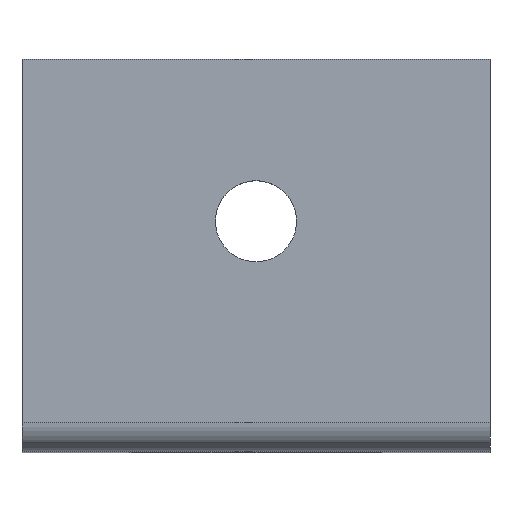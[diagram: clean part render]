
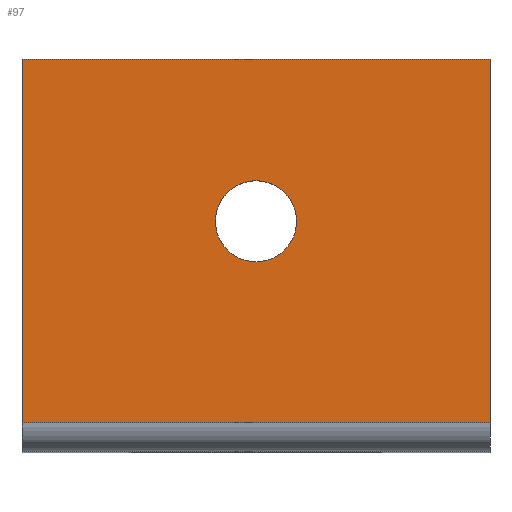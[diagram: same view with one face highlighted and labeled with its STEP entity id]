
A CAD part, top view. The second image highlights one B-rep face of the part: STEP entity #97.
In plain terms, the highlighted planar face has unit normal (0, 0, 1).
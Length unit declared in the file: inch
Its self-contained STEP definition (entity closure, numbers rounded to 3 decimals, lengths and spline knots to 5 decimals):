
#97=ADVANCED_FACE('',(#192,#193),#194,.T.);
#192=FACE_OUTER_BOUND('',#330,.T.);
#193=FACE_BOUND('',#331,.T.);
#194=PLANE('',#332);
#330=EDGE_LOOP('',(#543,#544,#545,#546));
#331=EDGE_LOOP('',(#547,#548,#549,#550));
#332=AXIS2_PLACEMENT_3D('',#551,#552,#553);
#543=ORIENTED_EDGE('',*,*,#657,.F.);
#544=ORIENTED_EDGE('',*,*,#666,.T.);
#545=ORIENTED_EDGE('',*,*,#654,.F.);
#546=ORIENTED_EDGE('',*,*,#607,.T.);
#547=ORIENTED_EDGE('',*,*,#577,.T.);
#548=ORIENTED_EDGE('',*,*,#661,.T.);
#549=ORIENTED_EDGE('',*,*,#668,.T.);
#550=ORIENTED_EDGE('',*,*,#639,.T.);
#551=CARTESIAN_POINT('',(0.,0.85633,2.68662));
#552=DIRECTION('',(0.0,0.0,1.0));
#553=DIRECTION('',(0.0,-1.0,0.0));
#577=EDGE_CURVE('',#676,#677,#678,.T.);
#607=EDGE_CURVE('',#731,#729,#732,.T.);
#639=EDGE_CURVE('',#778,#676,#779,.T.);
#654=EDGE_CURVE('',#731,#796,#798,.T.);
#657=EDGE_CURVE('',#800,#729,#802,.T.);
#661=EDGE_CURVE('',#677,#806,#807,.T.);
#666=EDGE_CURVE('',#800,#796,#813,.T.);
#668=EDGE_CURVE('',#806,#778,#815,.T.);
#676=VERTEX_POINT('',#823);
#677=VERTEX_POINT('',#824);
#678=B_SPLINE_CURVE_WITH_KNOTS('',3,(#825,#826,#827,#828),.UNSPECIFIED.,.F.,.F.,(4,4),(-1.0,-0.0),.UNSPECIFIED.);
#729=VERTEX_POINT('',#915);
#731=VERTEX_POINT('',#917);
#732=LINE('',#918,#919);
#778=VERTEX_POINT('',#990);
#779=B_SPLINE_CURVE_WITH_KNOTS('',3,(#991,#992,#993,#994),.UNSPECIFIED.,.F.,.F.,(4,4),(-1.0,-0.0),.UNSPECIFIED.);
#796=VERTEX_POINT('',#1018);
#798=LINE('',#1021,#1022);
#800=VERTEX_POINT('',#1024);
#802=LINE('',#1026,#1027);
#806=VERTEX_POINT('',#1032);
#807=B_SPLINE_CURVE_WITH_KNOTS('',3,(#1033,#1034,#1035,#1036),.UNSPECIFIED.,.F.,.F.,(4,4),(-1.0,-0.0),.UNSPECIFIED.);
#813=LINE('',#1043,#1044);
#815=B_SPLINE_CURVE_WITH_KNOTS('',3,(#1046,#1047,#1048,#1049),.UNSPECIFIED.,.F.,.F.,(4,4),(-1.0,-0.0),.UNSPECIFIED.);
#823=CARTESIAN_POINT('',(0.67187,0.97467,2.68662));
#824=CARTESIAN_POINT('',(0.8125,1.11529,2.68662));
#825=CARTESIAN_POINT('',(0.67187,0.97467,2.68662));
#826=CARTESIAN_POINT('',(0.67187,1.05233,2.68662));
#827=CARTESIAN_POINT('',(0.73484,1.11529,2.68662));
#828=CARTESIAN_POINT('',(0.8125,1.11529,2.68662));
#915=CARTESIAN_POINT('',(0.,0.27569,2.68662));
#917=CARTESIAN_POINT('',(0.,1.53698,2.68662));
#918=CARTESIAN_POINT('',(0.,1.53698,2.68662));
#919=VECTOR('',#1083,1.0);
#990=CARTESIAN_POINT('',(0.8125,0.83404,2.68662));
#991=CARTESIAN_POINT('',(0.8125,0.83404,2.68662));
#992=CARTESIAN_POINT('',(0.73484,0.83404,2.68662));
#993=CARTESIAN_POINT('',(0.67187,0.89701,2.68662));
#994=CARTESIAN_POINT('',(0.67187,0.97467,2.68662));
#1018=CARTESIAN_POINT('',(1.625,1.53698,2.68662));
#1021=CARTESIAN_POINT('',(0.,1.53698,2.68662));
#1022=VECTOR('',#1129,1.0);
#1024=CARTESIAN_POINT('',(1.625,0.27569,2.68662));
#1026=CARTESIAN_POINT('',(0.,0.27569,2.68662));
#1027=VECTOR('',#1133,1.0);
#1032=CARTESIAN_POINT('',(0.95312,0.97467,2.68662));
#1033=CARTESIAN_POINT('',(0.8125,1.11529,2.68662));
#1034=CARTESIAN_POINT('',(0.89016,1.11529,2.68662));
#1035=CARTESIAN_POINT('',(0.95312,1.05233,2.68662));
#1036=CARTESIAN_POINT('',(0.95312,0.97467,2.68662));
#1043=CARTESIAN_POINT('',(1.625,1.53698,2.68662));
#1044=VECTOR('',#1142,1.0);
#1046=CARTESIAN_POINT('',(0.95312,0.97467,2.68662));
#1047=CARTESIAN_POINT('',(0.95312,0.89701,2.68662));
#1048=CARTESIAN_POINT('',(0.89016,0.83404,2.68662));
#1049=CARTESIAN_POINT('',(0.8125,0.83404,2.68662));
#1083=DIRECTION('',(0.0,-1.0,0.0));
#1129=DIRECTION('',(1.0,0.0,0.0));
#1133=DIRECTION('',(-1.0,-0.0,-0.0));
#1142=DIRECTION('',(0.0,1.0,0.0));
